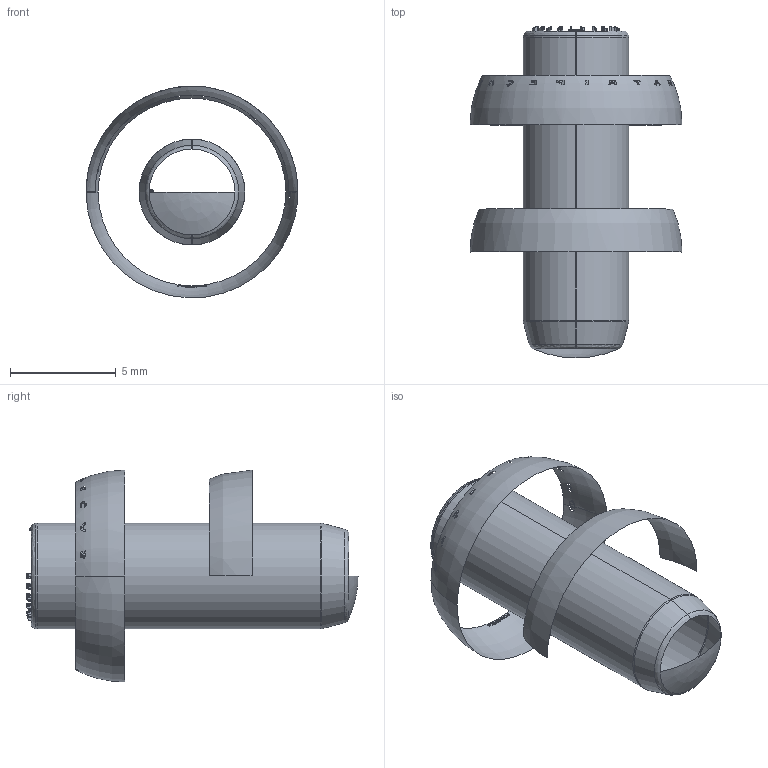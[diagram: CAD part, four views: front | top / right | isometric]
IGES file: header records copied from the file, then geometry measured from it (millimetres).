
Start section: SolidWorks IGES file using analytic representation for surfaces
Global section: file name: D:\Cleonir_arquivos\MT_15_07\Pinos Guia DIN 6325 ISO 8734 sem rosca\PG605016.igs; native system: SolidWorks 2013; preprocessor: SolidWorks 2013; author: Cleonir; date: 130718.161716; units: millimetre
Bounding box: 10 x 15.67 x 9.99 mm (x, y, z)
Surface area: 353.3 mm2 (no closed solid volume)
Topology: 0 solids, 0 shells, 290 faces, 2053 edges, 2052 vertices
Faces by surface type: bspline 263, revolution 27
